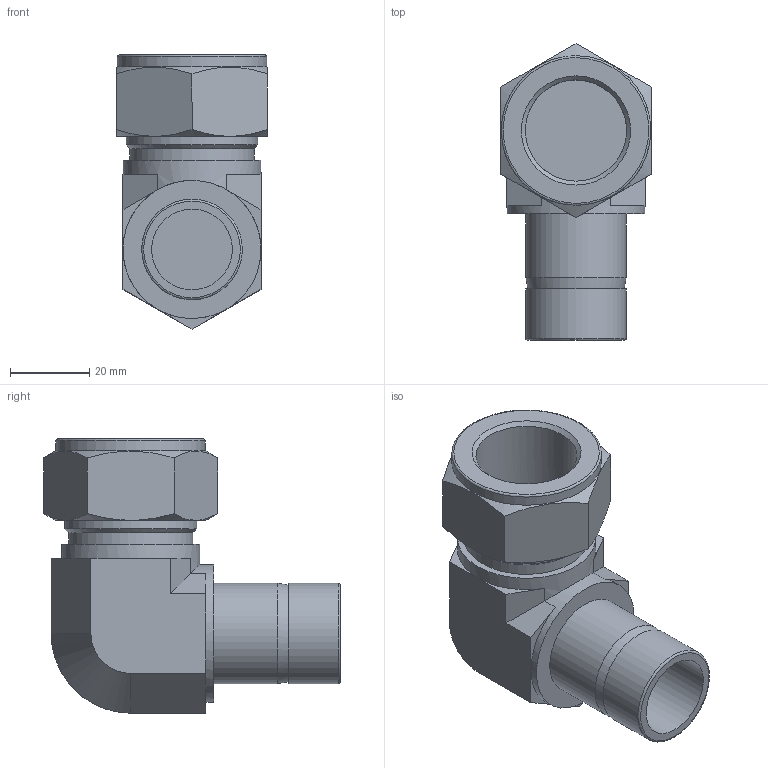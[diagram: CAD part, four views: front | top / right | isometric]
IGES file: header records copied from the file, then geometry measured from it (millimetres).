
Global section: file name: SAE-16; native system: Autodesk Inventor 2018; preprocessor: unknown; author: 윤만영,,11,0; organization: 20180222.105843; date: 20180224.101321; units: millimetre
Bounding box: 38.1 x 75 x 69.35 mm (x, y, z)
Volume: 63353.2 mm3; surface area: 18189.7 mm2
Topology: 1 solids, 1 shells, 57 faces, 140 edges, 91 vertices
Faces by surface type: bspline 57
